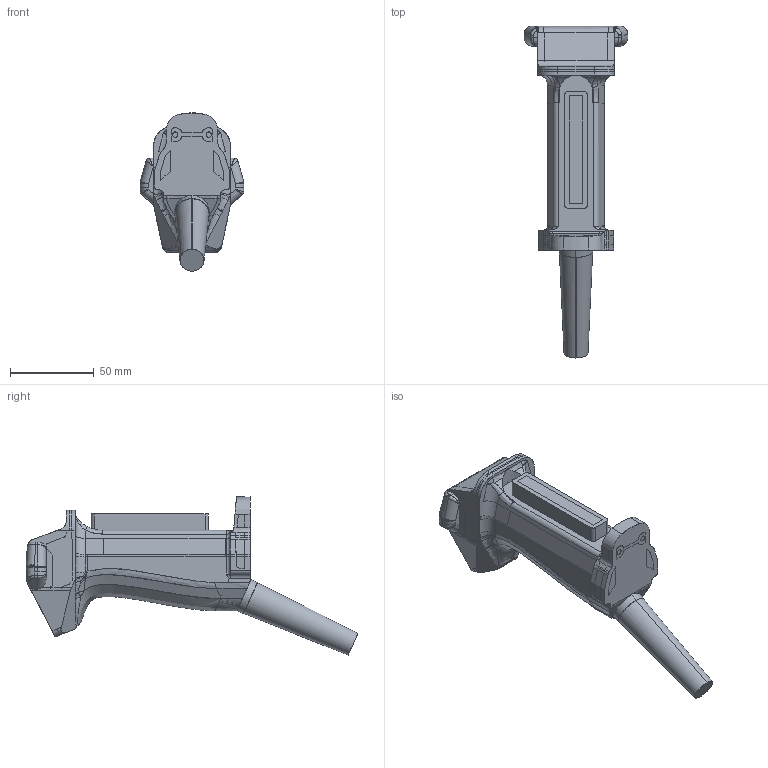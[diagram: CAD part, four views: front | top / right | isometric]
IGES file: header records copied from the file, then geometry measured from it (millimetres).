
Start section: SolidWorks IGES file using analytic representation for surfaces
Global section: file name: C:\catalog\sg-c1-21.IGS; native system: SolidWorks 2019; preprocessor: SolidWorks 2019; author: 5131475; date: 230405.103621; units: millimetre
Bounding box: 62 x 198.33 x 94.55 mm (x, y, z)
Surface area: 32220.9 mm2 (no closed solid volume)
Topology: 0 solids, 0 shells, 405 faces, 4336 edges, 4315 vertices
Faces by surface type: bspline 315, revolution 90
